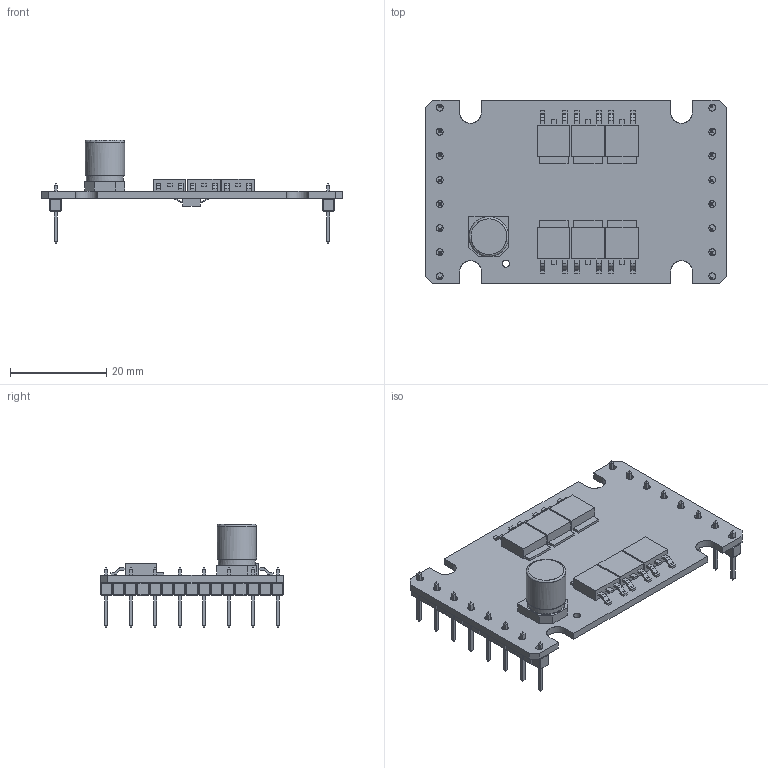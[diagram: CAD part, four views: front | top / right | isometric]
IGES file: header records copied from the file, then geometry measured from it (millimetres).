
Global section: file name: D:\Daten-Huge\PLM_Export\Huellen_aufbr\20120713_fuer_Vertrieb\SC2402P_neu.igs; native system: NX V7.5; preprocessor: SIEMENS PLM Software NX 7.5; author: DR. FRITZ FAULHABER GmbH & Co. KG; organization: DR. FRITZ FAULHABER GmbH & Co. KG; date: 20120713.145536; units: millimetre
Bounding box: 62.5 x 38.1 x 21.45 mm (x, y, z)
Surface area: 6950.6 mm2 (no closed solid volume)
Topology: 0 solids, 0 shells, 1451 faces, 6634 edges, 6590 vertices
Faces by surface type: bspline 1451
